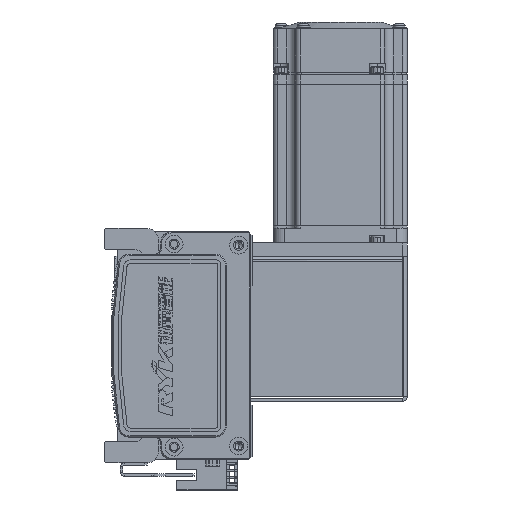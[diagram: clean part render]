
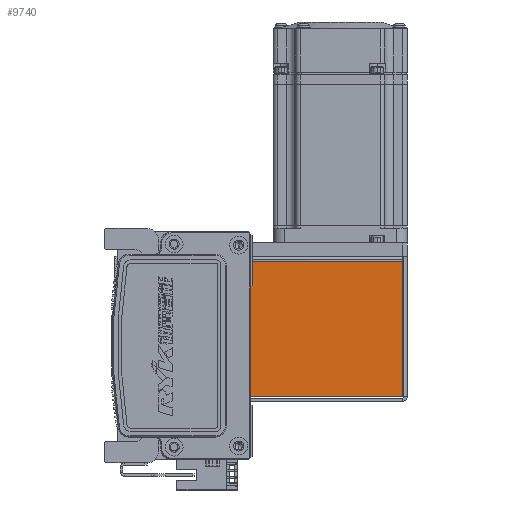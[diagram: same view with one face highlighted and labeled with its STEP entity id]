
A CAD part, left-side view. The second image highlights one B-rep face of the part: STEP entity #9740.
In plain terms, the highlighted planar face has unit normal (-1, 0, 0) as drawn and (0, 0, 1) by its records, which use the part's own axes.
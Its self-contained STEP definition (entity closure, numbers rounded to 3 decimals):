
#2106 = VECTOR ( 'NONE', #36149, 1000. ) ;
#4583 = CARTESIAN_POINT ( 'NONE',  ( -32.5, 0.737, 35. ) ) ;
#5540 = LINE ( 'NONE', #69188, #2106 ) ;
#9144 = CARTESIAN_POINT ( 'NONE',  ( 30.263, 0.737, 35. ) ) ;
#9740 = ADVANCED_FACE ( 'NONE', ( #18110 ), #14444, .F. ) ;
#12247 = LINE ( 'NONE', #24316, #38657 ) ;
#14364 = EDGE_CURVE ( 'NONE', #60249, #36188, #12247, .T. ) ;
#14444 = PLANE ( 'NONE',  #34675 ) ;
#14899 = DIRECTION ( 'NONE',  ( 0., 0., -1. ) ) ;
#16234 = DIRECTION ( 'NONE',  ( -1., 0., 0. ) ) ;
#18110 = FACE_OUTER_BOUND ( 'NONE', #18953, .T. ) ;
#18953 = EDGE_LOOP ( 'NONE', ( #25303, #47635, #49980, #60685 ) ) ;
#21885 = CARTESIAN_POINT ( 'NONE',  ( -30.293, 0., 35. ) ) ;
#22743 = LINE ( 'NONE', #4583, #35519 ) ;
#24316 = CARTESIAN_POINT ( 'NONE',  ( 0., 72.5, 35. ) ) ;
#24961 = EDGE_CURVE ( 'NONE', #31614, #46363, #22743, .T. ) ;
#25303 = ORIENTED_EDGE ( 'NONE', *, *, #43976, .T. ) ;
#31614 = VERTEX_POINT ( 'NONE', #9144 ) ;
#32820 = DIRECTION ( 'NONE',  ( 0., 1., 0. ) ) ;
#34675 = AXIS2_PLACEMENT_3D ( 'NONE', #52710, #14899, #52460 ) ;
#34998 = CARTESIAN_POINT ( 'NONE',  ( -30.293, 0.737, 35. ) ) ;
#35271 = DIRECTION ( 'NONE',  ( -1., 0., 0. ) ) ;
#35519 = VECTOR ( 'NONE', #16234, 1000. ) ;
#36149 = DIRECTION ( 'NONE',  ( 0., 1., 0. ) ) ;
#36188 = VERTEX_POINT ( 'NONE', #43114 ) ;
#38657 = VECTOR ( 'NONE', #35271, 1000. ) ;
#41681 = LINE ( 'NONE', #21885, #43349 ) ;
#43114 = CARTESIAN_POINT ( 'NONE',  ( -30.293, 72.5, 35. ) ) ;
#43349 = VECTOR ( 'NONE', #32820, 1000. ) ;
#43976 = EDGE_CURVE ( 'NONE', #31614, #60249, #5540, .T. ) ;
#46363 = VERTEX_POINT ( 'NONE', #34998 ) ;
#47635 = ORIENTED_EDGE ( 'NONE', *, *, #14364, .T. ) ;
#49980 = ORIENTED_EDGE ( 'NONE', *, *, #52957, .F. ) ;
#52460 = DIRECTION ( 'NONE',  ( -1., 0., 0. ) ) ;
#52710 = CARTESIAN_POINT ( 'NONE',  ( 0., 0., 35. ) ) ;
#52957 = EDGE_CURVE ( 'NONE', #46363, #36188, #41681, .T. ) ;
#57171 = CARTESIAN_POINT ( 'NONE',  ( 30.263, 72.5, 35. ) ) ;
#60249 = VERTEX_POINT ( 'NONE', #57171 ) ;
#60685 = ORIENTED_EDGE ( 'NONE', *, *, #24961, .F. ) ;
#69188 = CARTESIAN_POINT ( 'NONE',  ( 30.263, 0.737, 35. ) ) ;
